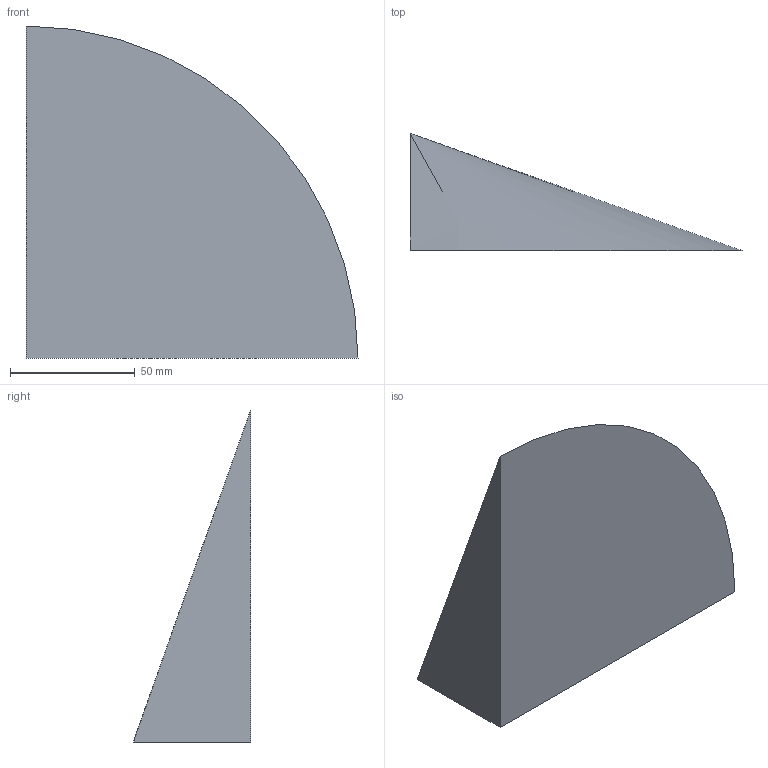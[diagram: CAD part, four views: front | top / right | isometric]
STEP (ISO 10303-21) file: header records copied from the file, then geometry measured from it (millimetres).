
FILE_DESCRIPTION(('CATIA V5 STEP Exchange'),'2;1');
FILE_NAME('C:\_Andres\UNIVERSIDAD\IQS\ASIGNATURAS\DAO\EXF\EXF-16172c\2inicio\Sarrió_Mercade_Ej07_v33.stp','2017-03-05T21:18:15+00:00',('none'),('none'),'CATIA Version 5-6 Release 2014 SP1 HF18','CATIA V5 STEP AP203','none');
FILE_SCHEMA(('CONFIG_CONTROL_DESIGN'));
Length unit declared in the file: millimetre
Products named in the file (1): Sarrió_Mercade_Ej07_v33
Bounding box: 133 x 47 x 133 mm (x, y, z)
Volume: 217655.6 mm3; surface area: 34878.8 mm2
Topology: 1 solids, 1 shells, 4 faces, 7 edges, 4 vertices
Faces by surface type: plane 3, cone 1
Entity records: 131 total; most frequent: CARTESIAN_POINT 15, DIRECTION 14, ORIENTED_EDGE 12, AXIS2_PLACEMENT_3D 6, EDGE_CURVE 6, VECTOR 5, LINE 5, ADVANCED_FACE 4
